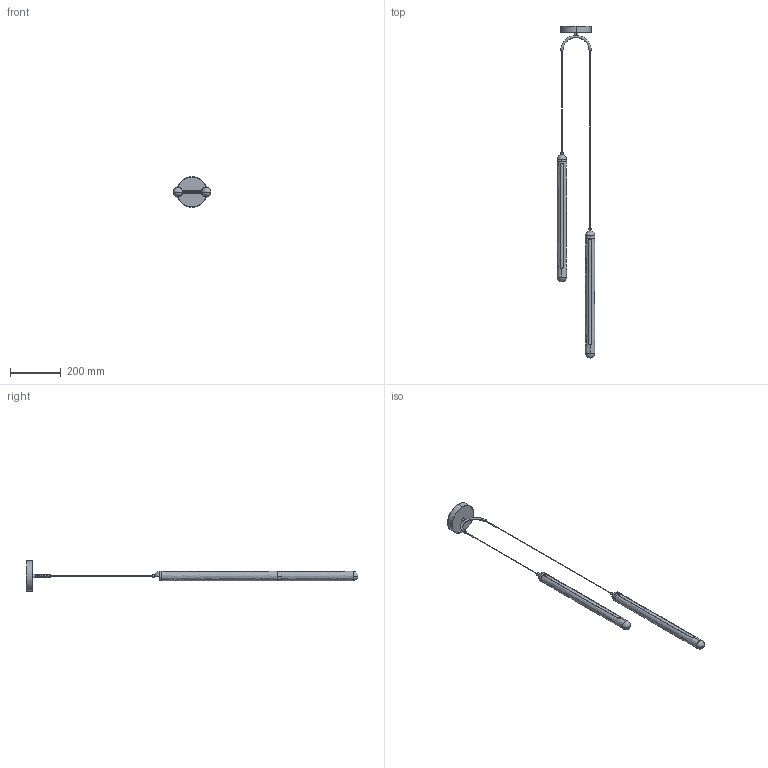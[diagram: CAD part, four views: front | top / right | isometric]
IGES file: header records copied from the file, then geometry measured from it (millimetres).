
Start section: SolidWorks IGES file using analytic representation for surfaces
Global section: file name: F:\燠隴矨\3D\2026-4\Elksdut Pendant Lamp-D12xH50cm.IGS,15; native system: HSolidWorks 2022; preprocessor: SolidWorks 2022; author: MyPC; date: 260422.141937; units: millimetre
Bounding box: 148.5 x 1307 x 120 mm (x, y, z)
Surface area: 179434 mm2 (no closed solid volume)
Topology: 0 solids, 0 shells, 63 faces, 1360 edges, 1356 vertices
Faces by surface type: bspline 33, revolution 30
